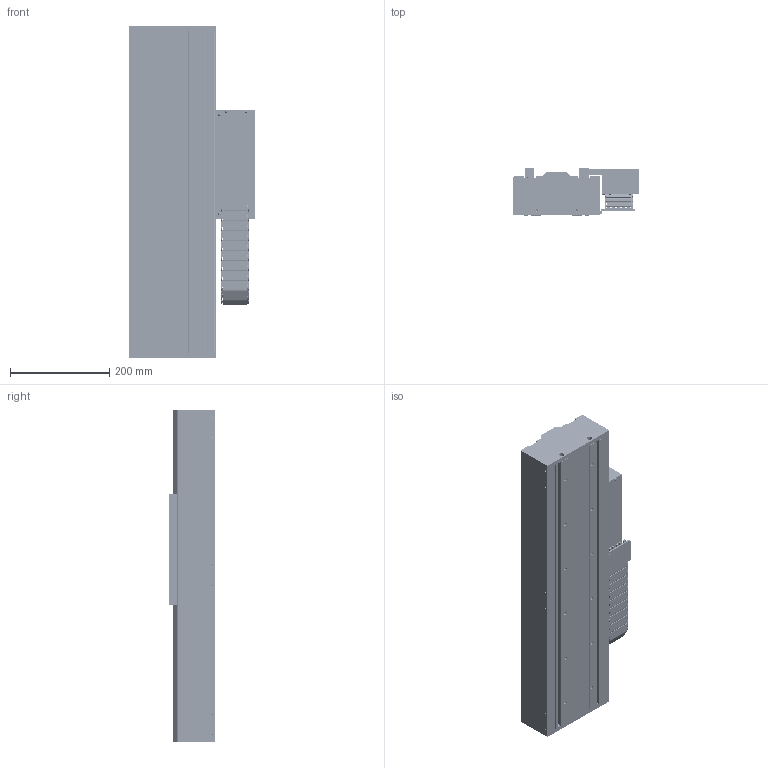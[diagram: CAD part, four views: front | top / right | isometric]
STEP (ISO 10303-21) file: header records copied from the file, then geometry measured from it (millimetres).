
FILE_DESCRIPTION (( 'STEP AP203' ), '1' );
FILE_NAME ('STF35120B-xC1B-Bxx.STEP', '2007-09-17T20:43:54', ( 'Yaskawa' ), ( 'Yaskawa' ), 'SwSTEP 2.0', 'SolidWorks 2007', '' );
FILE_SCHEMA (( 'CONFIG_CONTROL_DESIGN' ));
Length unit declared in the file: millimetre
Products named in the file (59): STCM-R1; SSR15W Block; STF2035-002A-R2 F2035 Carriage Horn; B18.3.1M - 6 x 1.0 x 16 Hex SHCS -- 16NHX_B18.3.1M - 6 x 1.0 x 16 Hex SHCS -- 16NHX; STF2035-005-R2 Cable Router; STF2035-003 Renishaw Encoder Mount; RGH22B; STF2035-004 Flag; STCM-003 Cable Assembly Bottom; STF35120 Base_STF35BM-002; SGLFW-35120AP; STCM-004 Cable Assembly Side; B18.3.5M - 3 x 0.5 x 6 Socket FCHS  -- 6N_B18.3.5M - 3 x 0.5 x 6 Socket FCHS  -- 6N; STCM-005-R1 Cable Assembly Cover; STCM-006-R1 Upper E-chain Bracket; Serial Converter; B18.3.1M - 4 x 0.7 x 12 Hex SHCS -- 12CHX_B18.3.1M - 4 x 0.7 x 12 Hex SHCS -- 12CHX; B18.3.1M - 6 x 1.0 x 25 Hex SHCS -- 25CHX_B18.3.1M - 6 x 1.0 x 25 Hex SHCS -- 25CHX; B18.3.4M - 3 x 0.5 x 12 SBHCS --N_B18.3.4M - 3 x 0.5 x 12 SBHCS --N; STF2035-006 Endplate; STF2035-009-02 Top Cover 2_B; STF2035-010-02 Side Cover 2_B; STCM-007 Lower E-Chain Bracket; STF20120B; 07.50.028.0_17; 07.50.028.0_18; STF35-120 SSR15W Carriage-R2; 07.50.028.0_22; 07.50.028.0_19; 07.50.028.0_23; 07.50.028.0_20; 07.50.028.0_21; 07.50.028.0_24; 07.50.028.0_25; 07.50.028.0_26; 07.50.028.0_27; 07.50.028.0_29; 07.50.028.0_30; 07.50.028.0_31; 07.50.028.0_32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
Assembly tree (148 placements, depth 4):
  STF35120B-xC1B-Bxx
    STF35BM Base_STF35120-002
      B18.3.1M - 4 x 0.7 x 12 Hex SHCS -- 12CHX_B18.3.1M - 4 x 0.7 x 12 Hex SHCS -- 12CHX  x20
      B18.3.1M - 4 x 0.7 x 12 Hex SHCS -- 12NHX_B18.3.1M - 4 x 0.7 x 12 Hex SHCS -- 12NHX  x28
      End Stop with Bumper  x4
        STF2035-007 End Stop
        Bumper-Medium
        B18.3.1M - 6 x 1.0 x 16 Hex SHCS -- 16NHX_B18.3.1M - 6 x 1.0 x 16 Hex SHCS -- 16NHX
      STF35120 Base_STF35BM-002
      SGLFM-35540AC
      Mult-SR15+580LY_002  x2
    STF2035-010-02 Side Cover 2_B  x2
    STF2035-006 Endplate  x2
    STCM-007 Lower E-Chain Bracket
    STF2035-009-02 Top Cover 2_B
    STF20120B
      07.50.028.0_32
      07.50.028.0_20
      07.50.028.0_33
      07.50.028.0_25
      07.50.028.0_29
      07.50.028.0_27
      07.50.028.0_26
      07.50.028.0_37
      07.50.028.0_38
      07.50.028.0_23
      07.50.028.0_35
      07.50.028.0_21
      07.50.028.0_36
      07.50.028.0_31
      07.50.028.0_34
      07.50.028.0_22
      07.50.028.0_24
      07.50.028.0_18
      07.50.028.0_30
      07.50.028.0_17
      07.50.028.0_19
      07.50.028.0_28
    STF35120 Complete Carriage
      B18.3.1M - 4 x 0.7 x 12 Hex SHCS -- 12CHX_B18.3.1M - 4 x 0.7 x 12 Hex SHCS -- 12CHX  x18
      B18.3.1M - 6 x 1.0 x 25 Hex SHCS -- 25CHX_B18.3.1M - 6 x 1.0 x 25 Hex SHCS -- 25CHX  x6
      B18.3.4M - 3 x 0.5 x 12 SBHCS --N_B18.3.4M - 3 x 0.5 x 12 SBHCS --N  x3
      STCM-R1
        STCM-005-R1 Cable Assembly Cover
        B18.3.4M - 3 x 0.5 x 12 SBHCS --N_B18.3.4M - 3 x 0.5 x 12 SBHCS --N  x4
        STCM-001-R2 Cable Bracket
        B18.3.5M - 3 x 0.5 x 6 Socket FCHS  -- 6N_B18.3.5M - 3 x 0.5 x 6 Socket FCHS  -- 6N  x6
        STCM-003 Cable Assembly Bottom
        STCM-004 Cable Assembly Side
        STCM-002-R2 Cable Assembly Front
        Serial Converter
        STCM-006-R1 Upper E-chain Bracket
      STF35-120 SSR15W Carriage-R2
        STF2035-002A-R2 F2035 Carriage Horn  x2
        RGH22B
        STF2035-005-R2 Cable Router
        SSR15W Block  x4
        STF2035-004 Flag
        STF2035-001C F35-120 Carriage
        SGLFW-35120AP
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Bounding box: 254.2 x 94.7 x 669.05 mm (x, y, z)
Volume: 4784433.8 mm3; surface area: 1609994.1 mm2
Topology: 168 solids, 168 shells, 6774 faces, 16575 edges, 10226 vertices
Faces by surface type: plane 3517, cylinder 2165, cone 852, torus 182, bspline 44, sphere 14
Entity records: 117904 total; most frequent: DIRECTION 19455, CARTESIAN_POINT 19211, ORIENTED_EDGE 18018, EDGE_CURVE 9009, AXIS2_PLACEMENT_3D 6789, VERTEX_POINT 5884, VECTOR 5877, LINE 5877
